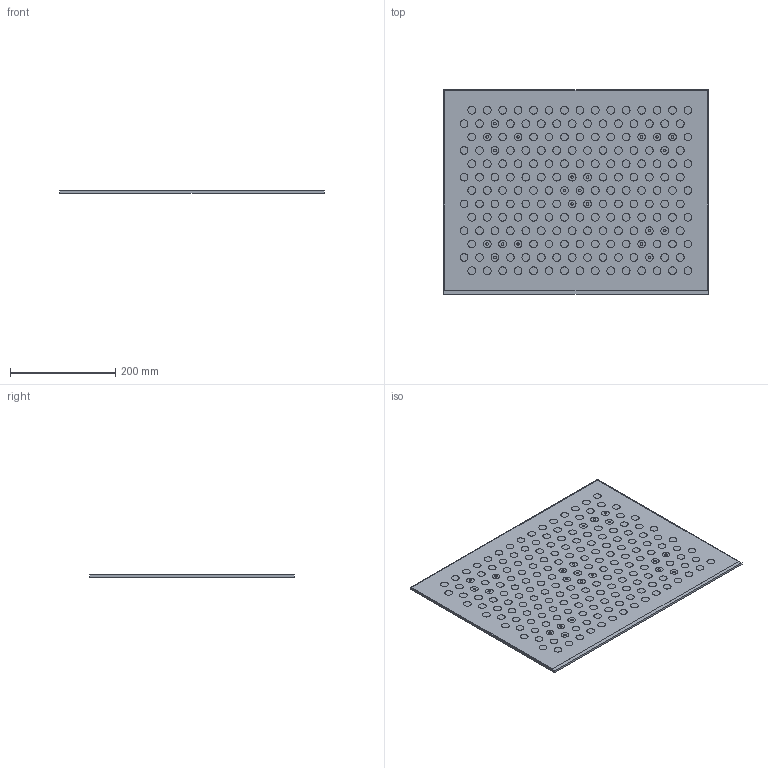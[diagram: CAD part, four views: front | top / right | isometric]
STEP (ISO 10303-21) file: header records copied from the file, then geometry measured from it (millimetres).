
FILE_DESCRIPTION(/* description */ (''),/* implementation_level */ '2;1');
FILE_NAME(/* name */ 'C:\#Vault-WorkDir\Konstruktions-Dokumente\Projekte\VISOR\Katalogzeichnungen\153-13572_ZCP 500-13x15.stp',/* time_stamp */ '2019-03-26T09:50:07+01:00',/* author */ ('SensoPart'),/* organization */ ('SensoPart'),/* preprocessor_version */ 'ST-DEVELOPER v17',/* originating_system */ 'Autodesk Inventor 2018',/* authorisation */ '');
FILE_SCHEMA (('AUTOMOTIVE_DESIGN { 1 0 10303 214 3 1 1 }'));
Length unit declared in the file: millimetre
Products named in the file (1): GH-ENG-0028050
Bounding box: 504 x 389 x 4.05 mm (x, y, z)
Volume: 792073 mm3; surface area: 399810.7 mm2
Topology: 1 solids, 1 shells, 451 faces, 693 edges, 462 vertices
Faces by surface type: plane 228, cylinder 223
Full cylindrical faces by diameter (mm): 4.886 x22, 14.685 x189
Entity records: 10569 total; most frequent: DIRECTION 2043, CARTESIAN_POINT 1607, ORIENTED_EDGE 1386, AXIS2_PLACEMENT_3D 898, EDGE_CURVE 693, EDGE_LOOP 669, VERTEX_POINT 462, FACE_OUTER_BOUND 451
